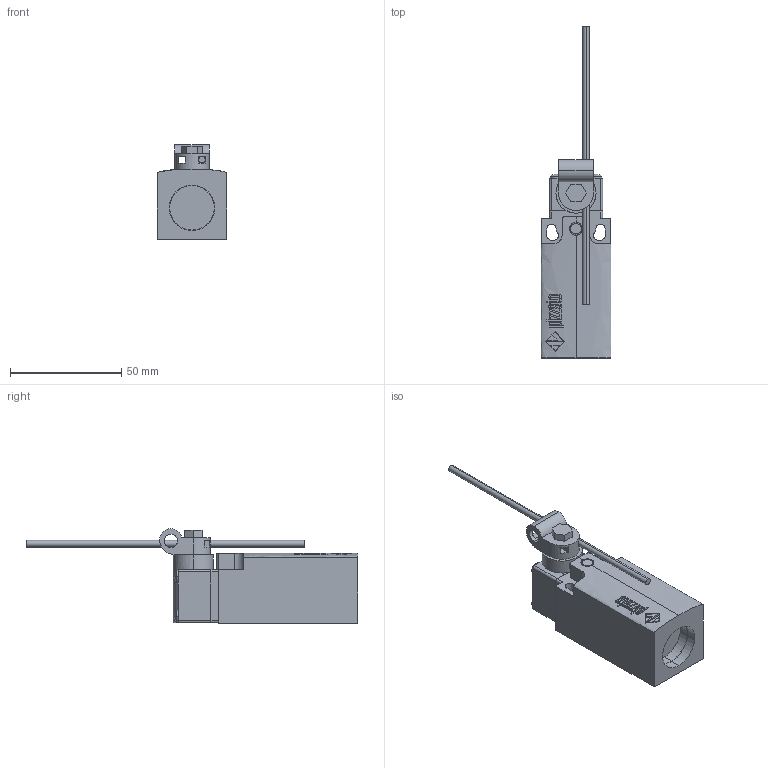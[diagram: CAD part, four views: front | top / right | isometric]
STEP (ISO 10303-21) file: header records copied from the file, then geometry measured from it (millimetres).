
FILE_DESCRIPTION (( 'STEP AP203' ), '1' );
FILE_NAME ('ZF_STEP_FM_x50.STEP', '2024-01-09T16:36:17', ( '' ), ( '' ), 'SwSTEP 2.0', 'SolidWorks 2020', '' );
FILE_SCHEMA (( 'CONFIG_CONTROL_DESIGN' ));
Length unit declared in the file: millimetre
Products named in the file (9): Pizzato_Custodia_FM_3dweb; Pizzato_Supporto_leve_6325_Versione per aste; ZF_STEP_VF_TE38; ZF_STEP_VN_A00LE; Pizzato_Supporto_TE38; Pizzato_vite_Per aste; Pizzato_Asta_Ø3x125; ZF_STEP_FM_x50
Assembly tree (8 placements, depth 3):
  ZF_STEP_FM_x50
    Pizzato_Custodia_FM_3dweb
      Pizzato_Custodia_FM_3dweb
    ZF_STEP_VF_TE38
      Pizzato_Supporto_TE38
    ZF_STEP_VN_A00LE
      Pizzato_Supporto_leve_6325_Versione per aste
      Pizzato_vite_Per aste
      Pizzato_Asta_Ø3x125
Bounding box: 31.2 x 149 x 42.6 mm (x, y, z)
Volume: 71044.2 mm3; surface area: 19368.8 mm2
Topology: 5 solids, 5 shells, 432 faces, 1179 edges, 784 vertices
Faces by surface type: plane 241, cylinder 137, bspline 45, sphere 8, torus 1
Entity records: 15233 total; most frequent: CARTESIAN_POINT 3480, ORIENTED_EDGE 2358, DIRECTION 2122, EDGE_CURVE 1179, VERTEX_POINT 784, LINE 726, VECTOR 726, AXIS2_PLACEMENT_3D 698
